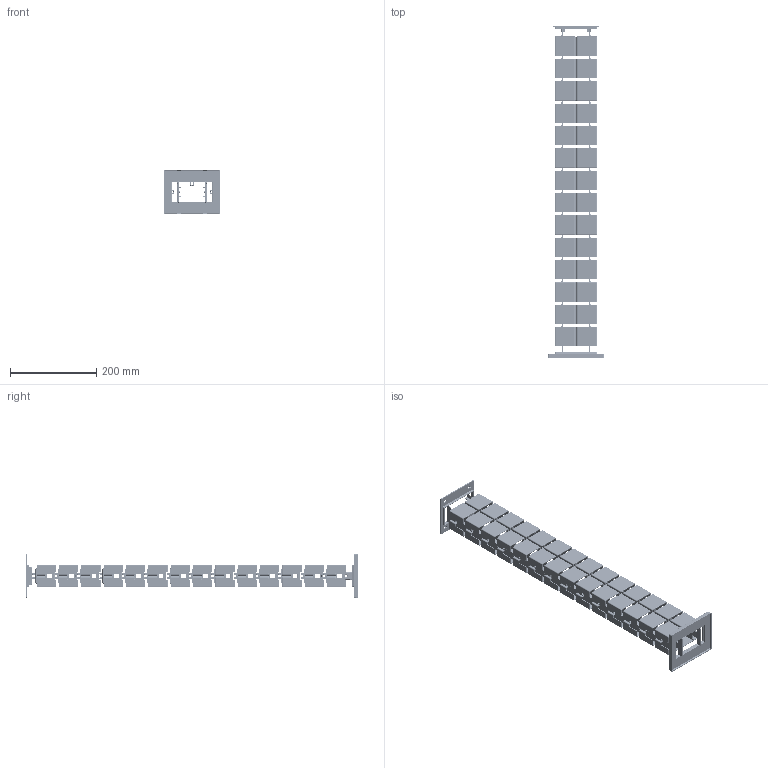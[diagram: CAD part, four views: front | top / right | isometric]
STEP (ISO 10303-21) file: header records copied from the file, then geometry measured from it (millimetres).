
FILE_DESCRIPTION((''),'2;1');
FILE_NAME('2292ASA_ASM','2017-11-13T',('tecnico1'),(''),'PRO/ENGINEER BY PARAMETRIC TECHNOLOGY CORPORATION, 2003410','PRO/ENGINEER BY PARAMETRIC TECHNOLOGY CORPORATION, 2003410','');
FILE_SCHEMA(('CONFIG_CONTROL_DESIGN'));
Length unit declared in the file: millimetre
Products named in the file (5): 2294ASA; 2340A; 2293ASA; 2295ASA; 2292ASA_ASM
Assembly tree (17 placements, depth 2):
  2292ASA_ASM
    2294ASA
    2340A
    2293ASA  x14
    2295ASA
Bounding box: 130.7 x 768.6 x 103.7 mm (x, y, z)
Volume: 593005.5 mm3; surface area: 601873.1 mm2
Topology: 17 solids, 17 shells, 9886 faces, 23131 edges, 13336 vertices
Faces by surface type: cylinder 4697, plane 2265, torus 1908, sphere 884, bspline 72, cone 60
Entity records: 38910 total; most frequent: CARTESIAN_POINT 8977, DIRECTION 6735, ORIENTED_EDGE 6014, EDGE_CURVE 3007, AXIS2_PLACEMENT_3D 2632, VERTEX_POINT 1740, VECTOR 1471, LINE 1471
